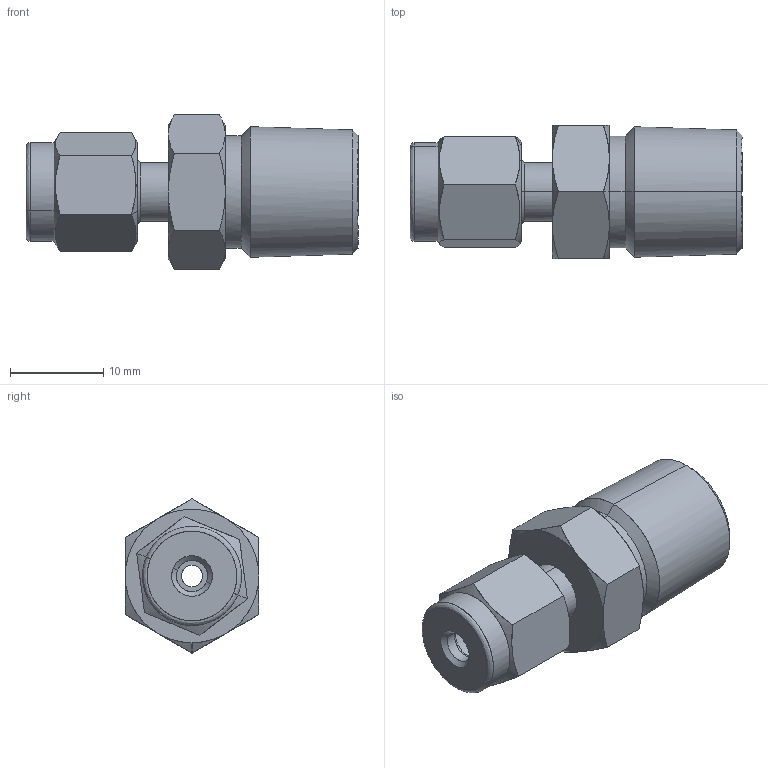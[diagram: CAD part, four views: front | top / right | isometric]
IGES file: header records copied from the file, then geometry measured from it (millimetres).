
Start section: Comment
Global section: file name: SMC2-4N.igs; native system:  By UGS Corp.; preprocessor: XPlus GENERIC/IGES 3.0; author: Author; organization: Title; date: 20100113.151847; units: millimetre
Bounding box: 35.54 x 14.3 x 16.51 mm (x, y, z)
Surface area: 2514.3 mm2 (no closed solid volume)
Topology: 0 solids, 0 shells, 80 faces, 336 edges, 336 vertices
Faces by surface type: bspline 80
